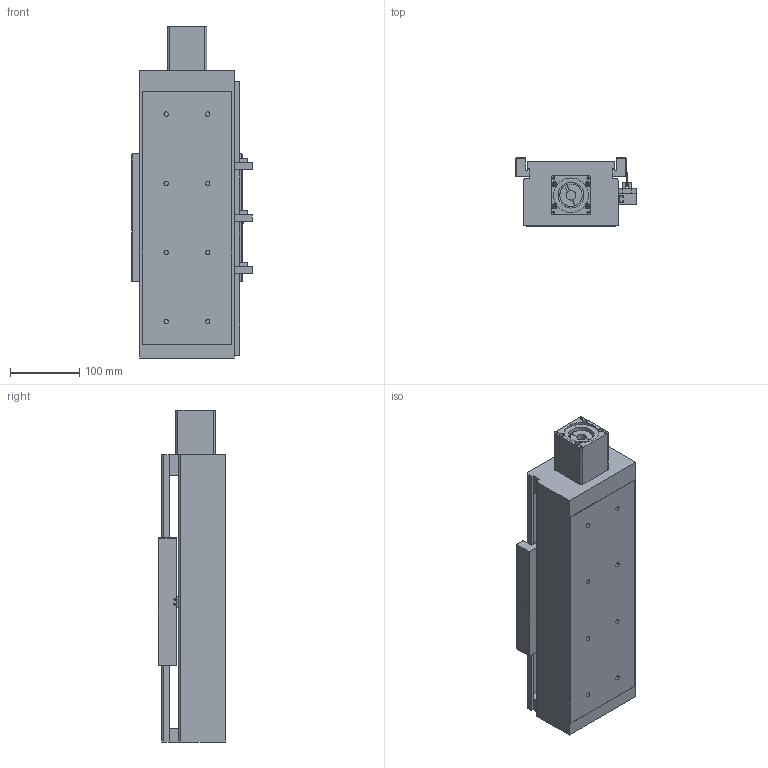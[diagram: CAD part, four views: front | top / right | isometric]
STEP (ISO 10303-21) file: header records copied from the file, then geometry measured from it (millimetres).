
FILE_DESCRIPTION((''),'2;1');
FILE_NAME('E:\libraries\UIA actuator library 2009\standard actuator\UIA136 ball screw 25\UIA136R15NDC-_ _ _-R25_ _, stp file 27Apr16\UIA136R15NDC-150-R25_ _-M60-P13-C10-S.stp','2016-04-28T10:05:44',('h029'),(''),'Autodesk Inventor 11','Autodesk Inventor 11','');
FILE_SCHEMA(('AUTOMOTIVE_DESIGN { 1 0 10303 214 1 1 1 1 }'));
Length unit declared in the file: millimetre
Products named in the file (10): UIA136R15NDC-150; UIA136R15NDC-body; motor mount F60; SOH-32C; SOH-32C-3; SOH-32C-1; SOH-32C-2; Carriage; Sensor Switch; sensor rail
Assembly tree (9 placements, depth 3):
  UIA136R15NDC-150
    UIA136R15NDC-body
    motor mount F60
    SOH-32C
      SOH-32C-3
      SOH-32C-1
      SOH-32C-2
    Carriage
    Sensor Switch
    sensor rail
Bounding box: 174.5 x 98 x 480 mm (x, y, z)
Volume: 2315260.6 mm3; surface area: 560324.6 mm2
Topology: 8 solids, 8 shells, 480 faces, 1283 edges, 838 vertices
Faces by surface type: plane 322, bspline 110, cylinder 44, cone 4
Full cylindrical faces by diameter (mm): 2.459 x2, 3.242 x2, 4.5 x2, 7 x4, 7.5 x2, 14 x3, 17 x1, 32 x3, 37 x1, 50.3 x1, 50.5 x1
Entity records: 15644 total; most frequent: CARTESIAN_POINT 4316, ORIENTED_EDGE 2208, DIRECTION 2162, EDGE_CURVE 1104, VECTOR 808, LINE 808, VERTEX_POINT 774, EDGE_LOOP 684
